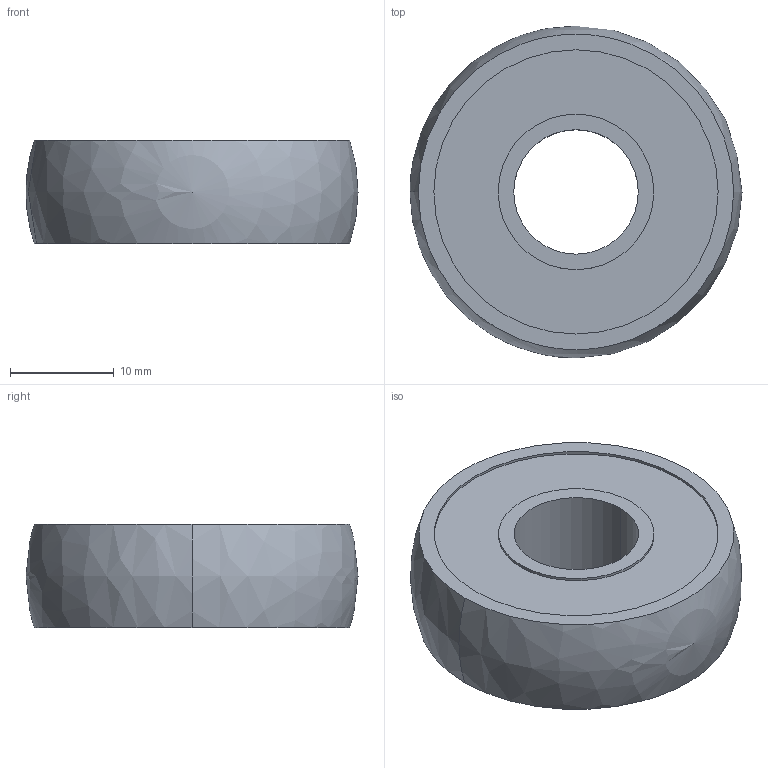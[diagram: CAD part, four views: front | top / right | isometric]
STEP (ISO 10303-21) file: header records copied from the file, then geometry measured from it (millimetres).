
FILE_DESCRIPTION (( 'STEP AP203' ), '1' );
FILE_NAME ('62012RSBOMB.STEP', '2013-01-29T10:57:17', ( 'Alusic' ), ( 'Alusic' ), 'SwSTEP 2.0', 'SolidWorks 2011', '' );
FILE_SCHEMA (( 'CONFIG_CONTROL_DESIGN' ));
Length unit declared in the file: millimetre
Products named in the file (1): 62012RSBOMB
Bounding box: 32 x 32 x 10 mm (x, y, z)
Volume: 6443.3 mm3; surface area: 2674.1 mm2
Topology: 1 solids, 1 shells, 18 faces, 41 edges, 27 vertices
Faces by surface type: cylinder 10, plane 6, sphere 2
Entity records: 567 total; most frequent: DIRECTION 100, CARTESIAN_POINT 79, ORIENTED_EDGE 72, AXIS2_PLACEMENT_3D 45, EDGE_CURVE 36, CIRCLE 26, EDGE_LOOP 24, VERTEX_POINT 24
